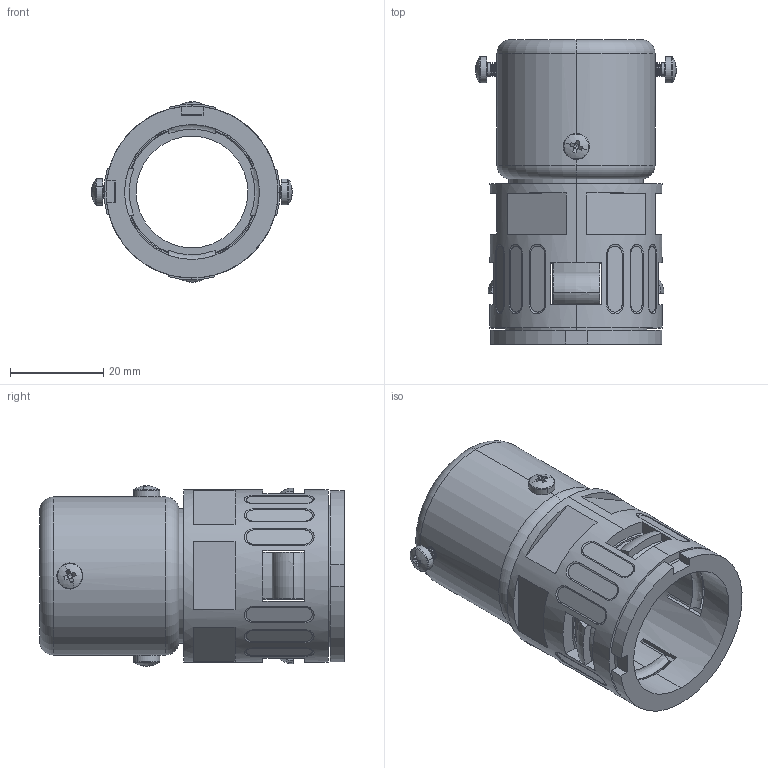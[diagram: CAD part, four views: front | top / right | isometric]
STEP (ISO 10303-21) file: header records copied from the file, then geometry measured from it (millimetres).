
FILE_DESCRIPTION (( 'STEP AP214' ), '1' );
FILE_NAME ('0000003155.STEP', '2015-11-24T14:48:57', ( 'HP' ), ( 'Hewlett-Packard Company' ), 'SwSTEP 2.0', 'SolidWorks 2014', '' );
FILE_SCHEMA (( 'AUTOMOTIVE_DESIGN' ));
Length unit declared in the file: millimetre
Products named in the file (7): 0000002844; 0000003155; pan head cross recess screw_din_ISO 7045 - M3 x 5 - Z --- 5S; 0000002556; 0000002555; 0000002554; 0000002553
Assembly tree (9 placements, depth 3):
  0000003155
    0000002844
    0000002556
      0000002553
      0000002554
      0000002555
    pan head cross recess screw_din_ISO 7045 - M3 x 5 - Z --- 5S  x4
Bounding box: 43.09 x 65.49 x 38.71 mm (x, y, z)
Volume: 25723.6 mm3; surface area: 25133.6 mm2
Topology: 8 solids, 8 shells, 643 faces, 1670 edges, 1046 vertices
Faces by surface type: plane 204, cone 184, cylinder 169, torus 54, bspline 24, sphere 8
Entity records: 15336 total; most frequent: CARTESIAN_POINT 5864, DIRECTION 1971, ORIENTED_EDGE 1920, EDGE_CURVE 960, AXIS2_PLACEMENT_3D 787, VERTEX_POINT 614, CIRCLE 434, EDGE_LOOP 408
